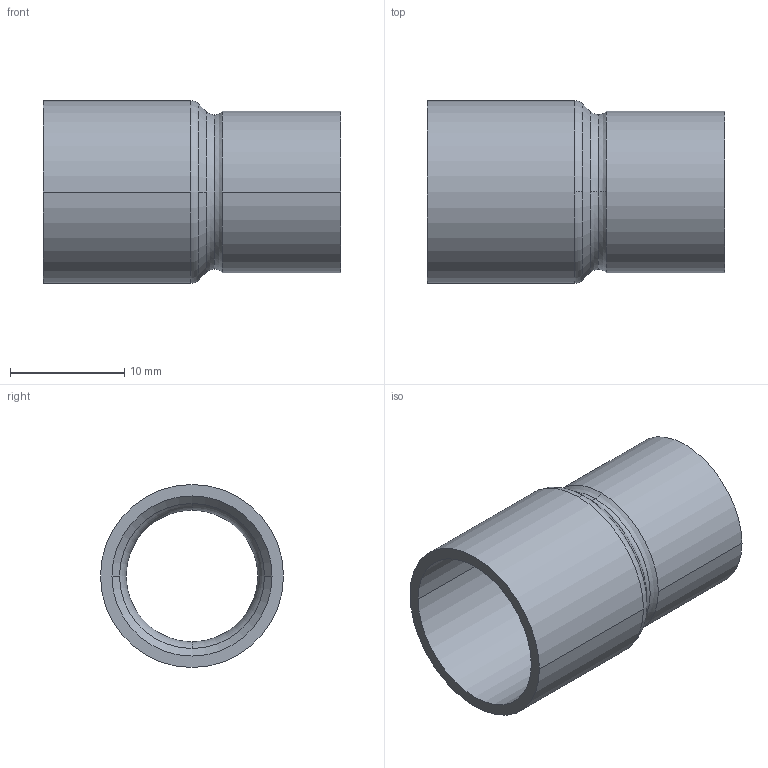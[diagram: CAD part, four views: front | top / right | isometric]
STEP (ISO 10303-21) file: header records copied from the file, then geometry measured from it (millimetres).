
FILE_DESCRIPTION((''),'2;1');
FILE_NAME('G:\Technics\CAD\Bauteile\Serie 15243\152431612.stp','2005-10-21T12:49:32',('boden'),(''),'Autodesk Inventor 8','Autodesk Inventor 8','');
FILE_SCHEMA(('AUTOMOTIVE_DESIGN { 1 0 10303 214 1 1 1 1 }'));
Length unit declared in the file: millimetre
Products named in the file (1): 152431612
Bounding box: 26 x 16 x 16 mm (x, y, z)
Volume: 1170.4 mm3; surface area: 2429.3 mm2
Topology: 1 solids, 1 shells, 24 faces, 60 edges, 38 vertices
Faces by surface type: cylinder 8, torus 6, bspline 4, cone 4, plane 2
Entity records: 931 total; most frequent: CARTESIAN_POINT 299, DIRECTION 150, ORIENTED_EDGE 120, AXIS2_PLACEMENT_3D 69, EDGE_CURVE 60, CIRCLE 48, VERTEX_POINT 38, EDGE_LOOP 26
